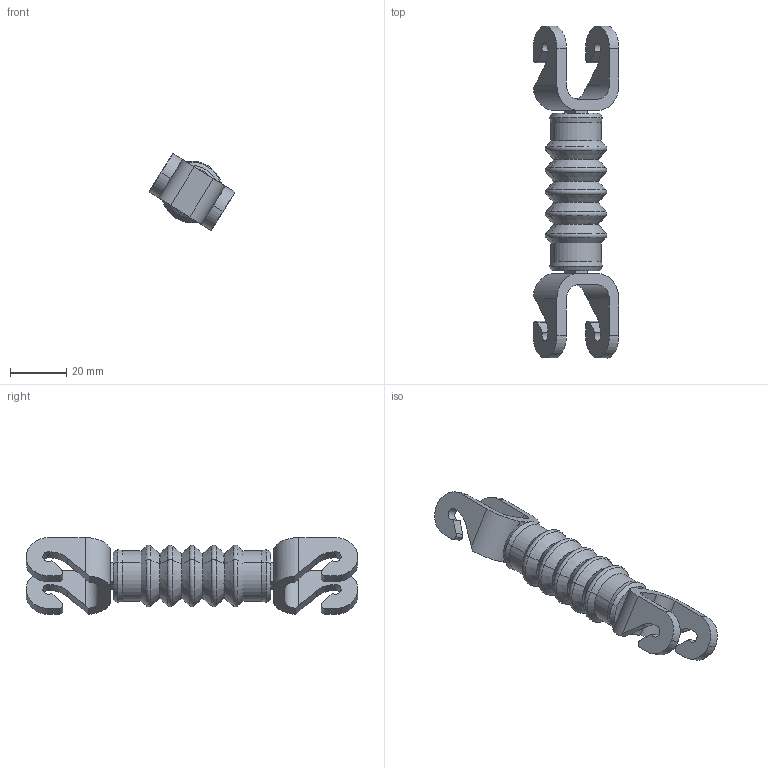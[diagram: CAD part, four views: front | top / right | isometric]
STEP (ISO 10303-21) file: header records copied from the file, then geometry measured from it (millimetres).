
FILE_DESCRIPTION (( 'STEP AP214' ), '1' );
FILE_NAME ('IRB360_X-1600-STD-4D_rev04_LA1_CL_CAD.step', '2025-01-27T14:52:12', ( '' ), ( '' ), 'SwSTEP 2.0', 'SolidWorks 2022', '' );
FILE_SCHEMA (( 'AUTOMOTIVE_DESIGN' ));
Length unit declared in the file: millimetre
Products named in the file (1): IRB360_X-1600-STD-4D_rev04_LA1_CL_CAD
Bounding box: 30.53 x 118 x 27.33 mm (x, y, z)
Volume: 24157.4 mm3; surface area: 10290.8 mm2
Topology: 3 solids, 3 shells, 134 faces, 322 edges, 196 vertices
Faces by surface type: plane 42, cylinder 38, cone 28, torus 26
Entity records: 3944 total; most frequent: DIRECTION 738, CARTESIAN_POINT 677, ORIENTED_EDGE 644, EDGE_CURVE 322, AXIS2_PLACEMENT_3D 289, VERTEX_POINT 196, LINE 160, VECTOR 160
